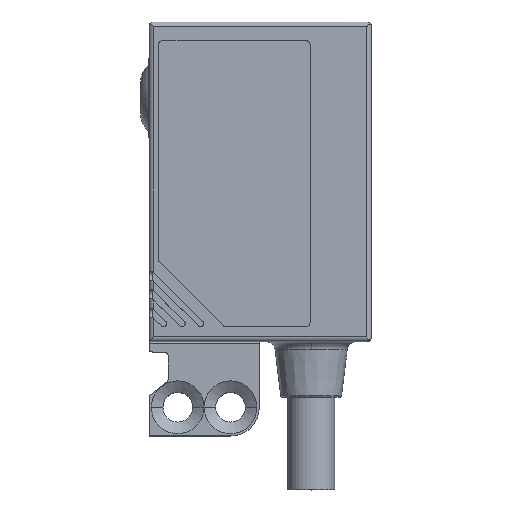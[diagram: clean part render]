
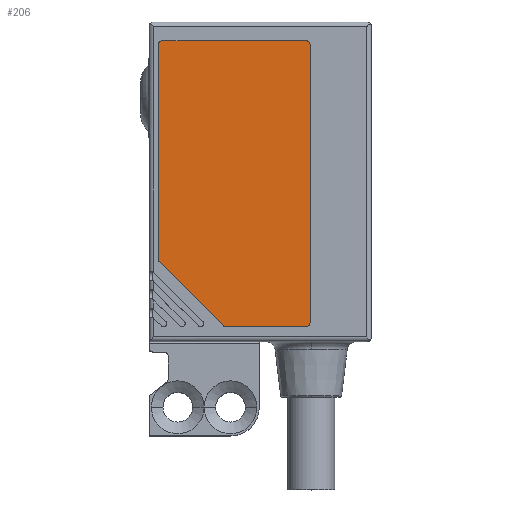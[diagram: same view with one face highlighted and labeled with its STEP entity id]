
A CAD part, top view. The second image highlights one B-rep face of the part: STEP entity #206.
In plain terms, the highlighted planar face has unit normal (0, 0, 1).
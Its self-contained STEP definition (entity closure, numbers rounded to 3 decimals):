
#206 = ADVANCED_FACE( '', ( #461 ), #462, .T. );
#461 = FACE_OUTER_BOUND( '', #805, .T. );
#462 = PLANE( '', #806 );
#805 = EDGE_LOOP( '', ( #1658, #1659, #1660, #1661, #1662, #1663, #1664, #1665, #1666, #1667 ) );
#806 = AXIS2_PLACEMENT_3D( '', #1668, #1669, #1670 );
#1658 = ORIENTED_EDGE( '', *, *, #2622, .T. );
#1659 = ORIENTED_EDGE( '', *, *, #2626, .T. );
#1660 = ORIENTED_EDGE( '', *, *, #2629, .T. );
#1661 = ORIENTED_EDGE( '', *, *, #2632, .T. );
#1662 = ORIENTED_EDGE( '', *, *, #2635, .T. );
#1663 = ORIENTED_EDGE( '', *, *, #2638, .T. );
#1664 = ORIENTED_EDGE( '', *, *, #2641, .T. );
#1665 = ORIENTED_EDGE( '', *, *, #2644, .T. );
#1666 = ORIENTED_EDGE( '', *, *, #2647, .T. );
#1667 = ORIENTED_EDGE( '', *, *, #2650, .T. );
#1668 = CARTESIAN_POINT( '', ( 0., 0., 5.3 ) );
#1669 = DIRECTION( '', ( 0., 0., 1. ) );
#1670 = DIRECTION( '', ( 1., 0., 0. ) );
#2622 = EDGE_CURVE( '', #3244, #3245, #3246, .T. );
#2626 = EDGE_CURVE( '', #3245, #3252, #3253, .T. );
#2629 = EDGE_CURVE( '', #3252, #3257, #3258, .T. );
#2632 = EDGE_CURVE( '', #3257, #3262, #3263, .T. );
#2635 = EDGE_CURVE( '', #3262, #3267, #3268, .T. );
#2638 = EDGE_CURVE( '', #3267, #3272, #3273, .T. );
#2641 = EDGE_CURVE( '', #3272, #3277, #3278, .T. );
#2644 = EDGE_CURVE( '', #3277, #3282, #3283, .T. );
#2647 = EDGE_CURVE( '', #3282, #3287, #3288, .T. );
#2650 = EDGE_CURVE( '', #3287, #3244, #3292, .T. );
#3244 = VERTEX_POINT( '', #4157 );
#3245 = VERTEX_POINT( '', #4158 );
#3246 = LINE( '', #4159, #4160 );
#3252 = VERTEX_POINT( '', #4169 );
#3253 = CIRCLE( '', #4170, 0.3 );
#3257 = VERTEX_POINT( '', #4175 );
#3258 = LINE( '', #4176, #4177 );
#3262 = VERTEX_POINT( '', #4183 );
#3263 = CIRCLE( '', #4184, 0.5 );
#3267 = VERTEX_POINT( '', #4189 );
#3268 = LINE( '', #4190, #4191 );
#3272 = VERTEX_POINT( '', #4197 );
#3273 = CIRCLE( '', #4198, 0.5 );
#3277 = VERTEX_POINT( '', #4203 );
#3278 = LINE( '', #4204, #4205 );
#3282 = VERTEX_POINT( '', #4211 );
#3283 = CIRCLE( '', #4212, 0.5 );
#3287 = VERTEX_POINT( '', #4217 );
#3288 = LINE( '', #4218, #4219 );
#3292 = CIRCLE( '', #4225, 0.3 );
#4157 = CARTESIAN_POINT( '', ( -16.412, 8.612, 5.3 ) );
#4158 = CARTESIAN_POINT( '', ( -9.488, 1.688, 5.3 ) );
#4159 = CARTESIAN_POINT( '', ( -16.412, 8.612, 5.3 ) );
#4160 = VECTOR( '', #5097, 1. );
#4169 = CARTESIAN_POINT( '', ( -9.276, 1.6, 5.3 ) );
#4170 = AXIS2_PLACEMENT_3D( '', #5101, #5102, #5103 );
#4175 = CARTESIAN_POINT( '', ( -0.6, 1.6, 5.3 ) );
#4176 = CARTESIAN_POINT( '', ( -9.276, 1.6, 5.3 ) );
#4177 = VECTOR( '', #5108, 1. );
#4183 = CARTESIAN_POINT( '', ( -0.1, 2.1, 5.3 ) );
#4184 = AXIS2_PLACEMENT_3D( '', #5111, #5112, #5113 );
#4189 = CARTESIAN_POINT( '', ( -0.1, 32., 5.3 ) );
#4190 = CARTESIAN_POINT( '', ( -0.1, 2.1, 5.3 ) );
#4191 = VECTOR( '', #5118, 1. );
#4197 = CARTESIAN_POINT( '', ( -0.6, 32.5, 5.3 ) );
#4198 = AXIS2_PLACEMENT_3D( '', #5121, #5122, #5123 );
#4203 = CARTESIAN_POINT( '', ( -16., 32.5, 5.3 ) );
#4204 = CARTESIAN_POINT( '', ( -0.6, 32.5, 5.3 ) );
#4205 = VECTOR( '', #5128, 1. );
#4211 = CARTESIAN_POINT( '', ( -16.5, 32., 5.3 ) );
#4212 = AXIS2_PLACEMENT_3D( '', #5131, #5132, #5133 );
#4217 = CARTESIAN_POINT( '', ( -16.5, 8.824, 5.3 ) );
#4218 = CARTESIAN_POINT( '', ( -16.5, 32., 5.3 ) );
#4219 = VECTOR( '', #5138, 1. );
#4225 = AXIS2_PLACEMENT_3D( '', #5141, #5142, #5143 );
#5097 = DIRECTION( '', ( 0.707, -0.707, 0. ) );
#5101 = CARTESIAN_POINT( '', ( -9.276, 1.9, 5.3 ) );
#5102 = DIRECTION( '', ( 0., 0., 1. ) );
#5103 = DIRECTION( '', ( -0.707, -0.707, 0. ) );
#5108 = DIRECTION( '', ( 1., 0., 0. ) );
#5111 = CARTESIAN_POINT( '', ( -0.6, 2.1, 5.3 ) );
#5112 = DIRECTION( '', ( 0., 0., 1. ) );
#5113 = DIRECTION( '', ( 0., -1., 0. ) );
#5118 = DIRECTION( '', ( 0., 1., 0. ) );
#5121 = CARTESIAN_POINT( '', ( -0.6, 32., 5.3 ) );
#5122 = DIRECTION( '', ( 0., 0., 1. ) );
#5123 = DIRECTION( '', ( 1., 0., 0. ) );
#5128 = DIRECTION( '', ( -1., 0., 0. ) );
#5131 = CARTESIAN_POINT( '', ( -16., 32., 5.3 ) );
#5132 = DIRECTION( '', ( 0., 0., 1. ) );
#5133 = DIRECTION( '', ( 0., 1., 0. ) );
#5138 = DIRECTION( '', ( 0., -1., 0. ) );
#5141 = CARTESIAN_POINT( '', ( -16.2, 8.824, 5.3 ) );
#5142 = DIRECTION( '', ( 0., 0., 1. ) );
#5143 = DIRECTION( '', ( -1., 0., 0. ) );
